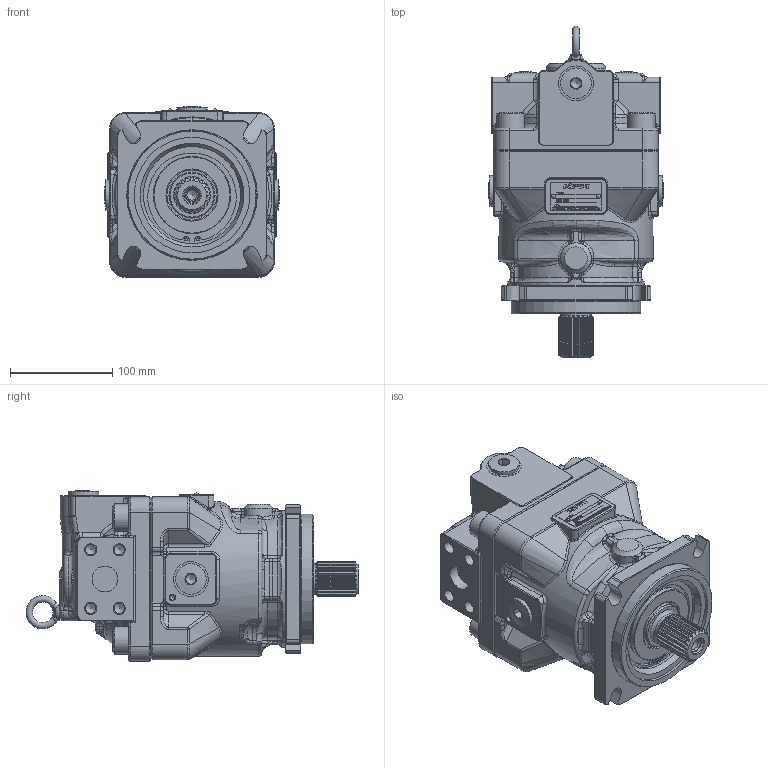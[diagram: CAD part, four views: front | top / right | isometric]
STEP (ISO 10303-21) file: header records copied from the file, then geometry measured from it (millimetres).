
FILE_DESCRIPTION(/* description */ (''),/* implementation_level */ '2;1');
FILE_NAME(/* name */ 'O:\80_個人\10_入業者\林\\X2\63D051FA30C730FC30BF\X0\\2020年度\2020.10.09-M7X\X2\591689B3\X0\-第一回\M7X85AB44.stp',/* time_stamp */ '2020-10-05T10:28:02+09:00',/* author */ ('PG14415'),/* organization */ (''),/* preprocessor_version */ 'ST-DEVELOPER v16.5',/* originating_system */ 'Autodesk Inventor 2017',/* authorisation */ '');
FILE_SCHEMA (('AUTOMOTIVE_DESIGN { 1 0 10303 214 3 1 1 }'));
Products named in the file (1): Part7
Bounding box: 171 x 324.75 x 167 mm (x, y, z)
Volume: 4512857.6 mm3; surface area: 240118.4 mm2
Topology: 1 solids, 11 shells, 2000 faces, 4951 edges, 3013 vertices
Faces by surface type: plane 915, cylinder 417, bspline 358, cone 133, torus 124, sphere 53
Full cylindrical faces by diameter (mm): 2.13 x2, 2.2 x4, 2.5 x2, 3 x1, 5 x2, 6 x3, 6.647 x2, 10.106 x9, 12 x9, 14 x1, 18 x4, 20 x4, 21 x2, 24 x2, 25 x2, 27 x4, 29 x4, 30 x6, 34 x3, 45 x1, 49 x1, 74 x1, 75.5 x1, 95 x2, 98.5 x1, 113 x1, 127 x1, 134 x1, 151 x1
Entity records: 67357 total; most frequent: CARTESIAN_POINT 20471, ORIENTED_EDGE 9370, DIRECTION 8892, EDGE_CURVE 4685, AXIS2_PLACEMENT_3D 3210, VERTEX_POINT 2941, LINE 2472, VECTOR 2472
